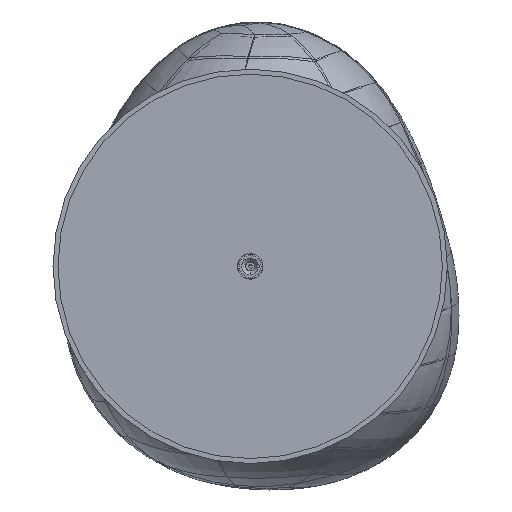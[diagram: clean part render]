
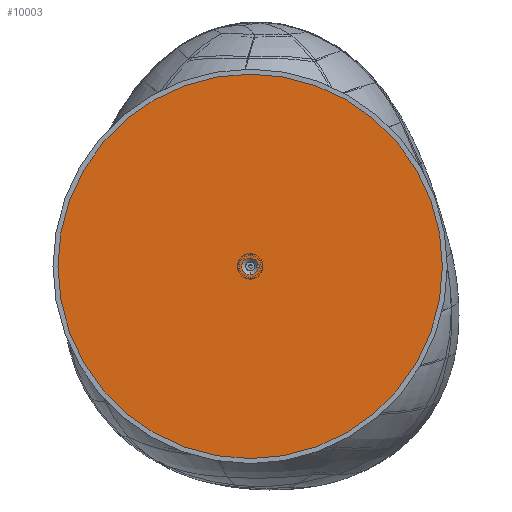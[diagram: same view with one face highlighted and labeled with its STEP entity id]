
A CAD part, front view. The second image highlights one B-rep face of the part: STEP entity #10003.
In plain terms, the highlighted planar face has unit normal (0, -1, 0).
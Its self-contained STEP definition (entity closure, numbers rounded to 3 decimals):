
#3677 = EDGE_LOOP ( 'NONE', ( #16837, #82143, #79367, #4468 ) ) ;
#4468 = ORIENTED_EDGE ( 'NONE', *, *, #44162, .T. ) ;
#10003 = ADVANCED_FACE ( 'NONE', ( #96387, #132621 ), #24740, .F. ) ;
#10093 = EDGE_CURVE ( 'NONE', #41468, #73970, #20867, .T. ) ;
#11098 = CARTESIAN_POINT ( 'NONE',  ( 8.345, 0., -1.613 ) ) ;
#14342 = EDGE_LOOP ( 'NONE', ( #23512, #114103 ) ) ;
#16837 = ORIENTED_EDGE ( 'NONE', *, *, #88527, .T. ) ;
#17964 = DIRECTION ( 'NONE',  ( 0., 1., 0. ) ) ;
#20867 = CIRCLE ( 'NONE', #108835, 195. ) ;
#23512 = ORIENTED_EDGE ( 'NONE', *, *, #107624, .F. ) ;
#24740 = PLANE ( 'NONE',  #116392 ) ;
#26076 = DIRECTION ( 'NONE',  ( 0., 1., 0. ) ) ;
#27275 = CARTESIAN_POINT ( 'NONE',  ( 8., 0., 0. ) ) ;
#29251 = CARTESIAN_POINT ( 'NONE',  ( 0., 0., -8.5 ) ) ;
#32974 = CIRCLE ( 'NONE', #125933, 195. ) ;
#34549 = CIRCLE ( 'NONE', #89856, 1.65 ) ;
#35126 = CARTESIAN_POINT ( 'NONE',  ( 8.345, 0., 1.613 ) ) ;
#38872 = DIRECTION ( 'NONE',  ( 0., 1., 0. ) ) ;
#39075 = DIRECTION ( 'NONE',  ( 0., 1., 0. ) ) ;
#41468 = VERTEX_POINT ( 'NONE', #110855 ) ;
#42092 = DIRECTION ( 'NONE',  ( 0., 1., 0. ) ) ;
#42762 = DIRECTION ( 'NONE',  ( 0., 1., 0. ) ) ;
#44162 = EDGE_CURVE ( 'NONE', #116459, #93012, #34549, .T. ) ;
#45477 = VERTEX_POINT ( 'NONE', #143312 ) ;
#50707 = AXIS2_PLACEMENT_3D ( 'NONE', #102970, #17964, #55709 ) ;
#55709 = DIRECTION ( 'NONE',  ( 0., 0., 1. ) ) ;
#56992 = DIRECTION ( 'NONE',  ( 0., 0., 1. ) ) ;
#62166 = VERTEX_POINT ( 'NONE', #29251 ) ;
#63283 = AXIS2_PLACEMENT_3D ( 'NONE', #142676, #26076, #106442 ) ;
#73970 = VERTEX_POINT ( 'NONE', #79557 ) ;
#75276 = DIRECTION ( 'NONE',  ( 0., 0., 1. ) ) ;
#78345 = CIRCLE ( 'NONE', #50707, 8.5 ) ;
#78938 = CARTESIAN_POINT ( 'NONE',  ( 0., 0., 0. ) ) ;
#79367 = ORIENTED_EDGE ( 'NONE', *, *, #116711, .T. ) ;
#79557 = CARTESIAN_POINT ( 'NONE',  ( 0., 0., -195. ) ) ;
#82143 = ORIENTED_EDGE ( 'NONE', *, *, #104382, .T. ) ;
#86910 = DIRECTION ( 'NONE',  ( 0., 0., 1. ) ) ;
#88527 = EDGE_CURVE ( 'NONE', #93012, #62166, #78345, .T. ) ;
#89856 = AXIS2_PLACEMENT_3D ( 'NONE', #27275, #39075, #75276 ) ;
#91560 = DIRECTION ( 'NONE',  ( 0., 0., 1. ) ) ;
#93012 = VERTEX_POINT ( 'NONE', #11098 ) ;
#96387 = FACE_BOUND ( 'NONE', #3677, .T. ) ;
#102970 = CARTESIAN_POINT ( 'NONE',  ( 0., 0., 0. ) ) ;
#104382 = EDGE_CURVE ( 'NONE', #62166, #45477, #111062, .T. ) ;
#106442 = DIRECTION ( 'NONE',  ( 0., 0., 1. ) ) ;
#107624 = EDGE_CURVE ( 'NONE', #73970, #41468, #32974, .T. ) ;
#108835 = AXIS2_PLACEMENT_3D ( 'NONE', #78938, #42762, #91560 ) ;
#110855 = CARTESIAN_POINT ( 'NONE',  ( 0., 0., 195. ) ) ;
#111062 = CIRCLE ( 'NONE', #63283, 8.5 ) ;
#114103 = ORIENTED_EDGE ( 'NONE', *, *, #10093, .F. ) ;
#116392 = AXIS2_PLACEMENT_3D ( 'NONE', #121582, #38872, #86910 ) ;
#116459 = VERTEX_POINT ( 'NONE', #35126 ) ;
#116711 = EDGE_CURVE ( 'NONE', #45477, #116459, #124565, .T. ) ;
#121582 = CARTESIAN_POINT ( 'NONE',  ( 0., 0., 0. ) ) ;
#124565 = CIRCLE ( 'NONE', #134566, 8.5 ) ;
#125933 = AXIS2_PLACEMENT_3D ( 'NONE', #128320, #137817, #126774 ) ;
#126774 = DIRECTION ( 'NONE',  ( 0., 0., 1. ) ) ;
#128320 = CARTESIAN_POINT ( 'NONE',  ( 0., 0., 0. ) ) ;
#132621 = FACE_OUTER_BOUND ( 'NONE', #14342, .T. ) ;
#134566 = AXIS2_PLACEMENT_3D ( 'NONE', #151529, #42092, #56992 ) ;
#137817 = DIRECTION ( 'NONE',  ( 0., 1., 0. ) ) ;
#142676 = CARTESIAN_POINT ( 'NONE',  ( 0., 0., 0. ) ) ;
#143312 = CARTESIAN_POINT ( 'NONE',  ( 0., 0., 8.5 ) ) ;
#151529 = CARTESIAN_POINT ( 'NONE',  ( 0., 0., 0. ) ) ;
